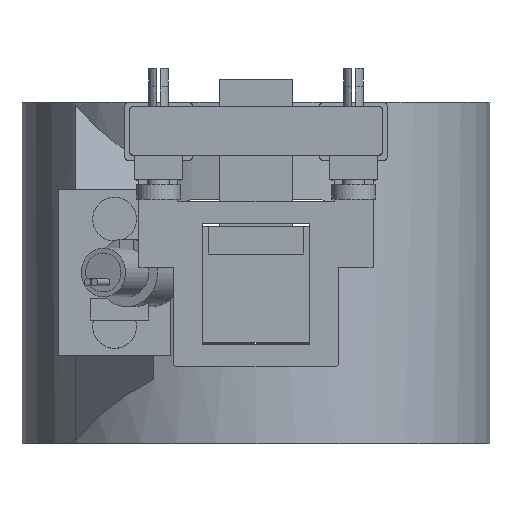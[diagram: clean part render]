
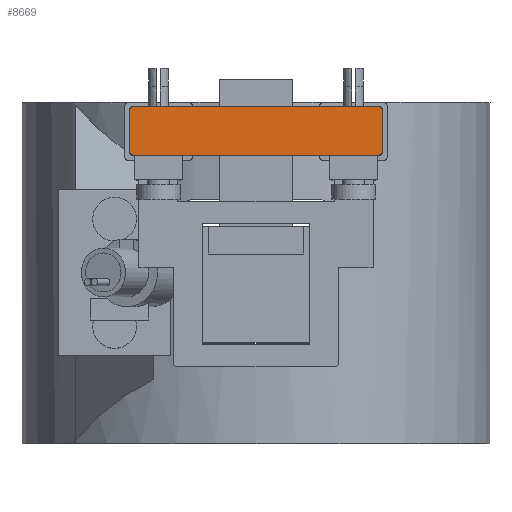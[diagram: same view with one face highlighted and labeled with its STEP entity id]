
A CAD part, top view. The second image highlights one B-rep face of the part: STEP entity #8669.
In plain terms, the highlighted planar face has unit normal (0, 0, 1).
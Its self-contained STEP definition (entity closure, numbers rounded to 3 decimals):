
#6749 = PLANE('',#6750);
#6750 = AXIS2_PLACEMENT_3D('',#6751,#6752,#6753);
#6751 = CARTESIAN_POINT('',(-26.,24.,52.));
#6752 = DIRECTION('',(1.,0.,0.));
#6753 = DIRECTION('',(0.,0.,1.));
#6886 = VERTEX_POINT('',#6887);
#6887 = CARTESIAN_POINT('',(-26.,33.,126.93));
#6901 = CYLINDRICAL_SURFACE('',#6902,1.);
#6902 = AXIS2_PLACEMENT_3D('',#6903,#6904,#6905);
#6903 = CARTESIAN_POINT('',(-25.,33.,118.93));
#6904 = DIRECTION('',(0.,0.,1.));
#6905 = DIRECTION('',(-1.,-0.,0.));
#6913 = EDGE_CURVE('',#6914,#6886,#6916,.T.);
#6914 = VERTEX_POINT('',#6915);
#6915 = CARTESIAN_POINT('',(-26.,25.,126.93));
#6916 = SURFACE_CURVE('',#6917,(#6921,#6928),.PCURVE_S1.);
#6917 = LINE('',#6918,#6919);
#6918 = CARTESIAN_POINT('',(-26.,24.,126.93));
#6919 = VECTOR('',#6920,1.);
#6920 = DIRECTION('',(0.,1.,0.));
#6921 = PCURVE('',#6749,#6922);
#6922 = DEFINITIONAL_REPRESENTATION('',(#6923),#6927);
#6923 = LINE('',#6924,#6925);
#6924 = CARTESIAN_POINT('',(74.93,0.));
#6925 = VECTOR('',#6926,1.);
#6926 = DIRECTION('',(0.,-1.));
#6927 = ( GEOMETRIC_REPRESENTATION_CONTEXT(2) 
PARAMETRIC_REPRESENTATION_CONTEXT() REPRESENTATION_CONTEXT('2D SPACE',''
  ) );
#6928 = PCURVE('',#6929,#6934);
#6929 = PLANE('',#6930);
#6930 = AXIS2_PLACEMENT_3D('',#6931,#6932,#6933);
#6931 = CARTESIAN_POINT('',(-26.,24.,126.93));
#6932 = DIRECTION('',(0.,0.,1.));
#6933 = DIRECTION('',(1.,0.,0.));
#6934 = DEFINITIONAL_REPRESENTATION('',(#6935),#6939);
#6935 = LINE('',#6936,#6937);
#6936 = CARTESIAN_POINT('',(0.,0.));
#6937 = VECTOR('',#6938,1.);
#6938 = DIRECTION('',(0.,1.));
#6939 = ( GEOMETRIC_REPRESENTATION_CONTEXT(2) 
PARAMETRIC_REPRESENTATION_CONTEXT() REPRESENTATION_CONTEXT('2D SPACE',''
  ) );
#6955 = CYLINDRICAL_SURFACE('',#6956,1.);
#6956 = AXIS2_PLACEMENT_3D('',#6957,#6958,#6959);
#6957 = CARTESIAN_POINT('',(-25.,25.,118.93));
#6958 = DIRECTION('',(0.,0.,1.));
#6959 = DIRECTION('',(-1.,-0.,0.));
#7011 = PLANE('',#7012);
#7012 = AXIS2_PLACEMENT_3D('',#7013,#7014,#7015);
#7013 = CARTESIAN_POINT('',(-26.,24.,52.));
#7014 = DIRECTION('',(0.,1.,0.));
#7015 = DIRECTION('',(0.,0.,1.));
#7089 = PLANE('',#7090);
#7090 = AXIS2_PLACEMENT_3D('',#7091,#7092,#7093);
#7091 = CARTESIAN_POINT('',(-26.,34.,52.));
#7092 = DIRECTION('',(0.,1.,0.));
#7093 = DIRECTION('',(0.,0.,1.));
#7484 = VERTEX_POINT('',#7485);
#7485 = CARTESIAN_POINT('',(-25.,24.,126.93));
#7506 = EDGE_CURVE('',#6914,#7484,#7507,.T.);
#7507 = SURFACE_CURVE('',#7508,(#7513,#7520),.PCURVE_S1.);
#7508 = CIRCLE('',#7509,1.);
#7509 = AXIS2_PLACEMENT_3D('',#7510,#7511,#7512);
#7510 = CARTESIAN_POINT('',(-25.,25.,126.93));
#7511 = DIRECTION('',(0.,0.,1.));
#7512 = DIRECTION('',(0.,-1.,0.));
#7513 = PCURVE('',#6955,#7514);
#7514 = DEFINITIONAL_REPRESENTATION('',(#7515),#7519);
#7515 = LINE('',#7516,#7517);
#7516 = CARTESIAN_POINT('',(-4.712,8.));
#7517 = VECTOR('',#7518,1.);
#7518 = DIRECTION('',(1.,0.));
#7519 = ( GEOMETRIC_REPRESENTATION_CONTEXT(2) 
PARAMETRIC_REPRESENTATION_CONTEXT() REPRESENTATION_CONTEXT('2D SPACE',''
  ) );
#7520 = PCURVE('',#6929,#7521);
#7521 = DEFINITIONAL_REPRESENTATION('',(#7522),#7526);
#7522 = CIRCLE('',#7523,1.);
#7523 = AXIS2_PLACEMENT_2D('',#7524,#7525);
#7524 = CARTESIAN_POINT('',(1.,1.));
#7525 = DIRECTION('',(0.,-1.));
#7526 = ( GEOMETRIC_REPRESENTATION_CONTEXT(2) 
PARAMETRIC_REPRESENTATION_CONTEXT() REPRESENTATION_CONTEXT('2D SPACE',''
  ) );
#7535 = EDGE_CURVE('',#7484,#7536,#7538,.T.);
#7536 = VERTEX_POINT('',#7537);
#7537 = CARTESIAN_POINT('',(25.,24.,126.93));
#7538 = SURFACE_CURVE('',#7539,(#7543,#7550),.PCURVE_S1.);
#7539 = LINE('',#7540,#7541);
#7540 = CARTESIAN_POINT('',(-26.,24.,126.93));
#7541 = VECTOR('',#7542,1.);
#7542 = DIRECTION('',(1.,0.,0.));
#7543 = PCURVE('',#7011,#7544);
#7544 = DEFINITIONAL_REPRESENTATION('',(#7545),#7549);
#7545 = LINE('',#7546,#7547);
#7546 = CARTESIAN_POINT('',(74.93,0.));
#7547 = VECTOR('',#7548,1.);
#7548 = DIRECTION('',(0.,1.));
#7549 = ( GEOMETRIC_REPRESENTATION_CONTEXT(2) 
PARAMETRIC_REPRESENTATION_CONTEXT() REPRESENTATION_CONTEXT('2D SPACE',''
  ) );
#7550 = PCURVE('',#6929,#7551);
#7551 = DEFINITIONAL_REPRESENTATION('',(#7552),#7556);
#7552 = LINE('',#7553,#7554);
#7553 = CARTESIAN_POINT('',(0.,0.));
#7554 = VECTOR('',#7555,1.);
#7555 = DIRECTION('',(1.,0.));
#7556 = ( GEOMETRIC_REPRESENTATION_CONTEXT(2) 
PARAMETRIC_REPRESENTATION_CONTEXT() REPRESENTATION_CONTEXT('2D SPACE',''
  ) );
#7574 = CYLINDRICAL_SURFACE('',#7575,1.);
#7575 = AXIS2_PLACEMENT_3D('',#7576,#7577,#7578);
#7576 = CARTESIAN_POINT('',(25.,25.,118.93));
#7577 = DIRECTION('',(0.,0.,1.));
#7578 = DIRECTION('',(1.,0.,-0.));
#8074 = VERTEX_POINT('',#8075);
#8075 = CARTESIAN_POINT('',(-25.,34.,126.93));
#8096 = EDGE_CURVE('',#8074,#8097,#8099,.T.);
#8097 = VERTEX_POINT('',#8098);
#8098 = CARTESIAN_POINT('',(25.,34.,126.93));
#8099 = SURFACE_CURVE('',#8100,(#8104,#8111),.PCURVE_S1.);
#8100 = LINE('',#8101,#8102);
#8101 = CARTESIAN_POINT('',(-26.,34.,126.93));
#8102 = VECTOR('',#8103,1.);
#8103 = DIRECTION('',(1.,0.,0.));
#8104 = PCURVE('',#7089,#8105);
#8105 = DEFINITIONAL_REPRESENTATION('',(#8106),#8110);
#8106 = LINE('',#8107,#8108);
#8107 = CARTESIAN_POINT('',(74.93,0.));
#8108 = VECTOR('',#8109,1.);
#8109 = DIRECTION('',(0.,1.));
#8110 = ( GEOMETRIC_REPRESENTATION_CONTEXT(2) 
PARAMETRIC_REPRESENTATION_CONTEXT() REPRESENTATION_CONTEXT('2D SPACE',''
  ) );
#8111 = PCURVE('',#6929,#8112);
#8112 = DEFINITIONAL_REPRESENTATION('',(#8113),#8117);
#8113 = LINE('',#8114,#8115);
#8114 = CARTESIAN_POINT('',(0.,10.));
#8115 = VECTOR('',#8116,1.);
#8116 = DIRECTION('',(1.,0.));
#8117 = ( GEOMETRIC_REPRESENTATION_CONTEXT(2) 
PARAMETRIC_REPRESENTATION_CONTEXT() REPRESENTATION_CONTEXT('2D SPACE',''
  ) );
#8135 = CYLINDRICAL_SURFACE('',#8136,1.);
#8136 = AXIS2_PLACEMENT_3D('',#8137,#8138,#8139);
#8137 = CARTESIAN_POINT('',(25.,33.,118.93));
#8138 = DIRECTION('',(0.,0.,1.));
#8139 = DIRECTION('',(1.,0.,-0.));
#8364 = EDGE_CURVE('',#6886,#8074,#8365,.T.);
#8365 = SURFACE_CURVE('',#8366,(#8371,#8378),.PCURVE_S1.);
#8366 = CIRCLE('',#8367,1.);
#8367 = AXIS2_PLACEMENT_3D('',#8368,#8369,#8370);
#8368 = CARTESIAN_POINT('',(-25.,33.,126.93));
#8369 = DIRECTION('',(-0.,-0.,-1.));
#8370 = DIRECTION('',(0.,-1.,0.));
#8371 = PCURVE('',#6901,#8372);
#8372 = DEFINITIONAL_REPRESENTATION('',(#8373),#8377);
#8373 = LINE('',#8374,#8375);
#8374 = CARTESIAN_POINT('',(1.571,8.));
#8375 = VECTOR('',#8376,1.);
#8376 = DIRECTION('',(-1.,0.));
#8377 = ( GEOMETRIC_REPRESENTATION_CONTEXT(2) 
PARAMETRIC_REPRESENTATION_CONTEXT() REPRESENTATION_CONTEXT('2D SPACE',''
  ) );
#8378 = PCURVE('',#6929,#8379);
#8379 = DEFINITIONAL_REPRESENTATION('',(#8380),#8388);
#8380 = ( BOUNDED_CURVE() B_SPLINE_CURVE(2,(#8381,#8382,#8383,#8384,
#8385,#8386,#8387),.UNSPECIFIED.,.T.,.F.) B_SPLINE_CURVE_WITH_KNOTS((1,2
    ,2,2,2,1),(-2.094,0.,2.094,4.189,
6.283,8.378),.UNSPECIFIED.) CURVE() 
GEOMETRIC_REPRESENTATION_ITEM() RATIONAL_B_SPLINE_CURVE((1.,0.5,1.,0.5,
1.,0.5,1.)) REPRESENTATION_ITEM('') );
#8381 = CARTESIAN_POINT('',(1.,8.));
#8382 = CARTESIAN_POINT('',(-0.732,8.));
#8383 = CARTESIAN_POINT('',(0.134,9.5));
#8384 = CARTESIAN_POINT('',(1.,11.));
#8385 = CARTESIAN_POINT('',(1.866,9.5));
#8386 = CARTESIAN_POINT('',(2.732,8.));
#8387 = CARTESIAN_POINT('',(1.,8.));
#8388 = ( GEOMETRIC_REPRESENTATION_CONTEXT(2) 
PARAMETRIC_REPRESENTATION_CONTEXT() REPRESENTATION_CONTEXT('2D SPACE',''
  ) );
#8669 = ADVANCED_FACE('',(#8670),#6929,.T.);
#8670 = FACE_BOUND('',#8671,.T.);
#8671 = EDGE_LOOP('',(#8672,#8673,#8674,#8675,#8703,#8731,#8753,#8754));
#8672 = ORIENTED_EDGE('',*,*,#6913,.F.);
#8673 = ORIENTED_EDGE('',*,*,#7506,.T.);
#8674 = ORIENTED_EDGE('',*,*,#7535,.T.);
#8675 = ORIENTED_EDGE('',*,*,#8676,.F.);
#8676 = EDGE_CURVE('',#8677,#7536,#8679,.T.);
#8677 = VERTEX_POINT('',#8678);
#8678 = CARTESIAN_POINT('',(26.,25.,126.93));
#8679 = SURFACE_CURVE('',#8680,(#8685,#8696),.PCURVE_S1.);
#8680 = CIRCLE('',#8681,1.);
#8681 = AXIS2_PLACEMENT_3D('',#8682,#8683,#8684);
#8682 = CARTESIAN_POINT('',(25.,25.,126.93));
#8683 = DIRECTION('',(-0.,-0.,-1.));
#8684 = DIRECTION('',(0.,-1.,0.));
#8685 = PCURVE('',#6929,#8686);
#8686 = DEFINITIONAL_REPRESENTATION('',(#8687),#8695);
#8687 = ( BOUNDED_CURVE() B_SPLINE_CURVE(2,(#8688,#8689,#8690,#8691,
#8692,#8693,#8694),.UNSPECIFIED.,.T.,.F.) B_SPLINE_CURVE_WITH_KNOTS((1,2
    ,2,2,2,1),(-2.094,0.,2.094,4.189,
6.283,8.378),.UNSPECIFIED.) CURVE() 
GEOMETRIC_REPRESENTATION_ITEM() RATIONAL_B_SPLINE_CURVE((1.,0.5,1.,0.5,
1.,0.5,1.)) REPRESENTATION_ITEM('') );
#8688 = CARTESIAN_POINT('',(51.,0.));
#8689 = CARTESIAN_POINT('',(49.268,0.));
#8690 = CARTESIAN_POINT('',(50.134,1.5));
#8691 = CARTESIAN_POINT('',(51.,3.));
#8692 = CARTESIAN_POINT('',(51.866,1.5));
#8693 = CARTESIAN_POINT('',(52.732,0.));
#8694 = CARTESIAN_POINT('',(51.,0.));
#8695 = ( GEOMETRIC_REPRESENTATION_CONTEXT(2) 
PARAMETRIC_REPRESENTATION_CONTEXT() REPRESENTATION_CONTEXT('2D SPACE',''
  ) );
#8696 = PCURVE('',#7574,#8697);
#8697 = DEFINITIONAL_REPRESENTATION('',(#8698),#8702);
#8698 = LINE('',#8699,#8700);
#8699 = CARTESIAN_POINT('',(4.712,8.));
#8700 = VECTOR('',#8701,1.);
#8701 = DIRECTION('',(-1.,0.));
#8702 = ( GEOMETRIC_REPRESENTATION_CONTEXT(2) 
PARAMETRIC_REPRESENTATION_CONTEXT() REPRESENTATION_CONTEXT('2D SPACE',''
  ) );
#8703 = ORIENTED_EDGE('',*,*,#8704,.T.);
#8704 = EDGE_CURVE('',#8677,#8705,#8707,.T.);
#8705 = VERTEX_POINT('',#8706);
#8706 = CARTESIAN_POINT('',(26.,33.,126.93));
#8707 = SURFACE_CURVE('',#8708,(#8712,#8719),.PCURVE_S1.);
#8708 = LINE('',#8709,#8710);
#8709 = CARTESIAN_POINT('',(26.,24.,126.93));
#8710 = VECTOR('',#8711,1.);
#8711 = DIRECTION('',(0.,1.,0.));
#8712 = PCURVE('',#6929,#8713);
#8713 = DEFINITIONAL_REPRESENTATION('',(#8714),#8718);
#8714 = LINE('',#8715,#8716);
#8715 = CARTESIAN_POINT('',(52.,0.));
#8716 = VECTOR('',#8717,1.);
#8717 = DIRECTION('',(0.,1.));
#8718 = ( GEOMETRIC_REPRESENTATION_CONTEXT(2) 
PARAMETRIC_REPRESENTATION_CONTEXT() REPRESENTATION_CONTEXT('2D SPACE',''
  ) );
#8719 = PCURVE('',#8720,#8725);
#8720 = PLANE('',#8721);
#8721 = AXIS2_PLACEMENT_3D('',#8722,#8723,#8724);
#8722 = CARTESIAN_POINT('',(26.,24.,118.93));
#8723 = DIRECTION('',(1.,0.,0.));
#8724 = DIRECTION('',(0.,0.,1.));
#8725 = DEFINITIONAL_REPRESENTATION('',(#8726),#8730);
#8726 = LINE('',#8727,#8728);
#8727 = CARTESIAN_POINT('',(8.,0.));
#8728 = VECTOR('',#8729,1.);
#8729 = DIRECTION('',(0.,-1.));
#8730 = ( GEOMETRIC_REPRESENTATION_CONTEXT(2) 
PARAMETRIC_REPRESENTATION_CONTEXT() REPRESENTATION_CONTEXT('2D SPACE',''
  ) );
#8731 = ORIENTED_EDGE('',*,*,#8732,.T.);
#8732 = EDGE_CURVE('',#8705,#8097,#8733,.T.);
#8733 = SURFACE_CURVE('',#8734,(#8739,#8746),.PCURVE_S1.);
#8734 = CIRCLE('',#8735,1.);
#8735 = AXIS2_PLACEMENT_3D('',#8736,#8737,#8738);
#8736 = CARTESIAN_POINT('',(25.,33.,126.93));
#8737 = DIRECTION('',(0.,0.,1.));
#8738 = DIRECTION('',(0.,-1.,0.));
#8739 = PCURVE('',#6929,#8740);
#8740 = DEFINITIONAL_REPRESENTATION('',(#8741),#8745);
#8741 = CIRCLE('',#8742,1.);
#8742 = AXIS2_PLACEMENT_2D('',#8743,#8744);
#8743 = CARTESIAN_POINT('',(51.,9.));
#8744 = DIRECTION('',(0.,-1.));
#8745 = ( GEOMETRIC_REPRESENTATION_CONTEXT(2) 
PARAMETRIC_REPRESENTATION_CONTEXT() REPRESENTATION_CONTEXT('2D SPACE',''
  ) );
#8746 = PCURVE('',#8135,#8747);
#8747 = DEFINITIONAL_REPRESENTATION('',(#8748),#8752);
#8748 = LINE('',#8749,#8750);
#8749 = CARTESIAN_POINT('',(-1.571,8.));
#8750 = VECTOR('',#8751,1.);
#8751 = DIRECTION('',(1.,0.));
#8752 = ( GEOMETRIC_REPRESENTATION_CONTEXT(2) 
PARAMETRIC_REPRESENTATION_CONTEXT() REPRESENTATION_CONTEXT('2D SPACE',''
  ) );
#8753 = ORIENTED_EDGE('',*,*,#8096,.F.);
#8754 = ORIENTED_EDGE('',*,*,#8364,.F.);
